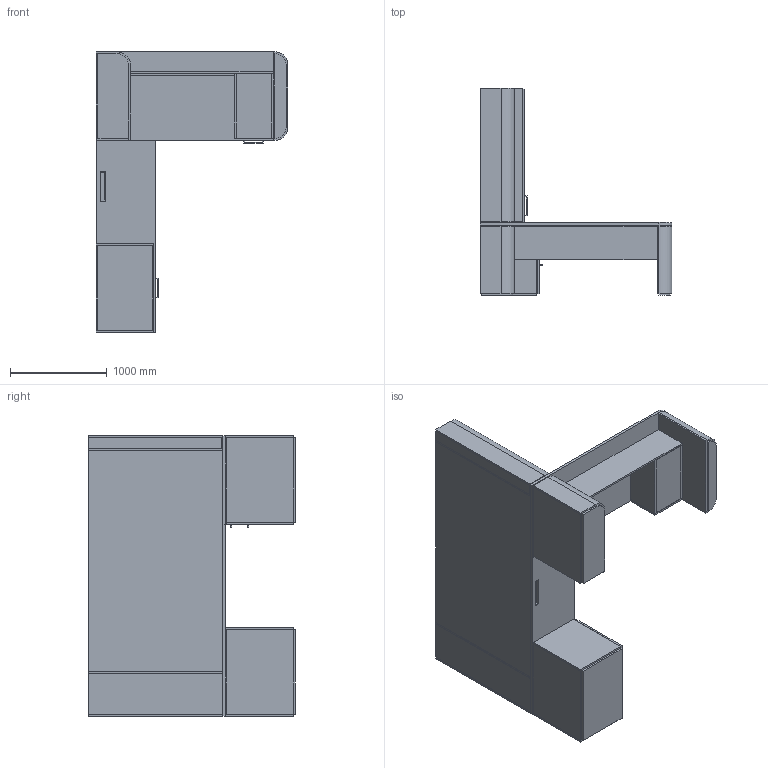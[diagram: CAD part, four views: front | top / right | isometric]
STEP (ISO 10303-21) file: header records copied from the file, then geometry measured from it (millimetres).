
FILE_DESCRIPTION(/* description */ ('','CAx-IF Rec.Pracs.---Representation and Presentation of Product Manufacturing Information (PMI)---4.0---2014-10-13'),/* implementation_level */ '2;1');
FILE_NAME(/* name */ 'BASYS^PO1.stp',/* time_stamp */ '2024-12-05T17:32:27-05:00',/* author */ ('mbowman'),/* organization */ (''),/* preprocessor_version */ 'ST-DEVELOPER v19.2',/* originating_system */ 'Autodesk Inventor 2023',/* authorisation */ '');
FILE_SCHEMA (('AP242_MANAGED_MODEL_BASED_3D_ENGINEERING_MIM_LF { 1 0 10303 442 1 1 4 }'));
Products named in the file (13): BASYS^OFFICE 1_RADIUS END LEG-SOLID ASSEMBLY; BASYS^OFFICE 1_WIRE WALL RT-RADIUS END LEG LEFT; BASYS^OFFICE 1_WIRE WALL RT-RADIUS END LEG LEFT_1; BASYS^24 DEEP PED_LEGAL LAT-FF PED; BASYS^24 DEEP PED_LEGAL LAT-FF PED_1; BASYS^OFFICE 1_WARDROBE-18x18x55-RIGHT END; BASYS^OFFICE 1_WARDROBE-18x18x55-RIGHT END_1; SCHWINN-BAR PULL 2334.192; BASYS^RETURN_SEATED RIGHT-78x24; MOCKETT^CP2-12in PAPER SLOT; BASYS^OFFICE 1_CPU STORAGE-14x36x28.38-PARTS SOLID; BASYS^OFFICE 1_HIGH RISE-14x55x90-5 DOORS; HP CPU (TOWER)
Assembly tree (17 placements, depth 3):
  BASYS^OFFICE 1_RADIUS END LEG-SOLID ASSEMBLY
    BASYS^OFFICE 1_WIRE WALL RT-RADIUS END LEG LEFT
      BASYS^OFFICE 1_WIRE WALL RT-RADIUS END LEG LEFT_1
      SCHWINN-BAR PULL 2334.192  x2
    BASYS^24 DEEP PED_LEGAL LAT-FF PED
      BASYS^24 DEEP PED_LEGAL LAT-FF PED_1
      SCHWINN-BAR PULL 2334.192  x2
    BASYS^OFFICE 1_WARDROBE-18x18x55-RIGHT END
      BASYS^OFFICE 1_WARDROBE-18x18x55-RIGHT END_1
      SCHWINN-BAR PULL 2334.192
    BASYS^RETURN_SEATED RIGHT-78x24
    MOCKETT^CP2-12in PAPER SLOT  x2
    BASYS^OFFICE 1_CPU STORAGE-14x36x28.38-PARTS SOLID
    BASYS^OFFICE 1_HIGH RISE-14x55x90-5 DOORS
    HP CPU (TOWER)
Bounding box: 1981.2 x 2133.6 x 2895.6 mm (x, y, z)
Volume: 513028074.7 mm3; surface area: 51001440.4 mm2
Topology: 57 solids, 97 shells, 3578 faces, 9533 edges, 6306 vertices
Faces by surface type: plane 2719, cylinder 722, bspline 77, torus 53, sphere 6, cone 1
Full cylindrical faces by diameter (mm): 0.718 x18, 1 x15, 1.09 x9, 2.3 x4, 2.392 x1, 2.719 x1, 2.744 x1, 2.75 x2, 3.5 x4, 4.86 x1, 4.91 x2, 5 x2, 5.38 x2, 6 x4, 6.35 x2, 6.735 x1, 6.776 x1, 6.895 x1, 7.096 x1, 10.16 x2, 12.523 x1, 12.7 x2, 15 x1
Entity records: 122626 total; most frequent: CARTESIAN_POINT 31688, ORIENTED_EDGE 18696, DIRECTION 17809, EDGE_CURVE 9348, LINE 7611, VECTOR 7611, VERTEX_POINT 6186, AXIS2_PLACEMENT_3D 5099
